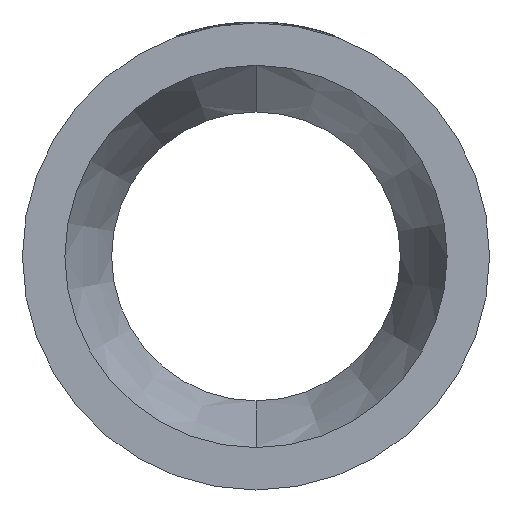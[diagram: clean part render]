
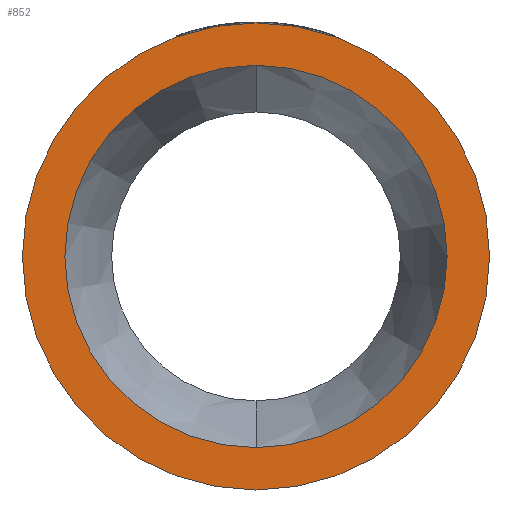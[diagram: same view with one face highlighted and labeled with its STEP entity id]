
A CAD part, left-side view. The second image highlights one B-rep face of the part: STEP entity #852.
In plain terms, the highlighted planar face has unit normal (-1, 0, 0).
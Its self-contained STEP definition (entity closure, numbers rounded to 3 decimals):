
#160 = VERTEX_POINT ( 'NONE', #1146 ) ;
#244 = EDGE_CURVE ( 'NONE', #2448, #1117, #847, .T. ) ;
#312 = ORIENTED_EDGE ( 'NONE', *, *, #2857, .F. ) ;
#316 = ORIENTED_EDGE ( 'NONE', *, *, #3089, .F. ) ;
#347 = DIRECTION ( 'NONE',  ( 0., 0., 1. ) ) ;
#362 = DIRECTION ( 'NONE',  ( -1., 0., 0. ) ) ;
#376 = ORIENTED_EDGE ( 'NONE', *, *, #2841, .T. ) ;
#386 = CARTESIAN_POINT ( 'NONE',  ( 0., 0., 0. ) ) ;
#389 = CARTESIAN_POINT ( 'NONE',  ( 0., 0., 125. ) ) ;
#409 = ORIENTED_EDGE ( 'NONE', *, *, #244, .T. ) ;
#433 = DIRECTION ( 'NONE',  ( 0., 0., 1. ) ) ;
#575 = DIRECTION ( 'NONE',  ( -1., 0., 0. ) ) ;
#583 = CARTESIAN_POINT ( 'NONE',  ( 0., 0., 0. ) ) ;
#584 = DIRECTION ( 'NONE',  ( 0., 0., -1. ) ) ;
#586 = DIRECTION ( 'NONE',  ( 1., 0., 0. ) ) ;
#587 = CARTESIAN_POINT ( 'NONE',  ( 0., 102.3, 0. ) ) ;
#639 = PLANE ( 'NONE',  #2916 ) ;
#779 = CARTESIAN_POINT ( 'NONE',  ( 0., 0., -125. ) ) ;
#847 = CIRCLE ( 'NONE', #3346, 125. ) ;
#852 = ADVANCED_FACE ( 'NONE', ( #1098, #2849 ), #639, .F. ) ;
#896 = DIRECTION ( 'NONE',  ( 0., 0., 1. ) ) ;
#905 = DIRECTION ( 'NONE',  ( -1., 0., 0. ) ) ;
#932 = CARTESIAN_POINT ( 'NONE',  ( 0., 0., 0. ) ) ;
#1098 = FACE_BOUND ( 'NONE', #1536, .T. ) ;
#1117 = VERTEX_POINT ( 'NONE', #389 ) ;
#1146 = CARTESIAN_POINT ( 'NONE',  ( 0., 0., 102.3 ) ) ;
#1536 = EDGE_LOOP ( 'NONE', ( #312, #316 ) ) ;
#1592 = CIRCLE ( 'NONE', #2146, 102.3 ) ;
#1810 = VERTEX_POINT ( 'NONE', #2772 ) ;
#2146 = AXIS2_PLACEMENT_3D ( 'NONE', #2726, #2707, #2560 ) ;
#2229 = AXIS2_PLACEMENT_3D ( 'NONE', #386, #362, #347 ) ;
#2262 = AXIS2_PLACEMENT_3D ( 'NONE', #583, #575, #433 ) ;
#2448 = VERTEX_POINT ( 'NONE', #779 ) ;
#2560 = DIRECTION ( 'NONE',  ( 0., 0., 1. ) ) ;
#2707 = DIRECTION ( 'NONE',  ( -1., 0., 0. ) ) ;
#2726 = CARTESIAN_POINT ( 'NONE',  ( 0., 0., 0. ) ) ;
#2762 = EDGE_LOOP ( 'NONE', ( #376, #409 ) ) ;
#2772 = CARTESIAN_POINT ( 'NONE',  ( 0., 0., -102.3 ) ) ;
#2841 = EDGE_CURVE ( 'NONE', #1117, #2448, #3613, .T. ) ;
#2849 = FACE_OUTER_BOUND ( 'NONE', #2762, .T. ) ;
#2857 = EDGE_CURVE ( 'NONE', #160, #1810, #3568, .T. ) ;
#2916 = AXIS2_PLACEMENT_3D ( 'NONE', #587, #586, #584 ) ;
#3089 = EDGE_CURVE ( 'NONE', #1810, #160, #1592, .T. ) ;
#3346 = AXIS2_PLACEMENT_3D ( 'NONE', #932, #905, #896 ) ;
#3568 = CIRCLE ( 'NONE', #2229, 102.3 ) ;
#3613 = CIRCLE ( 'NONE', #2262, 125. ) ;
